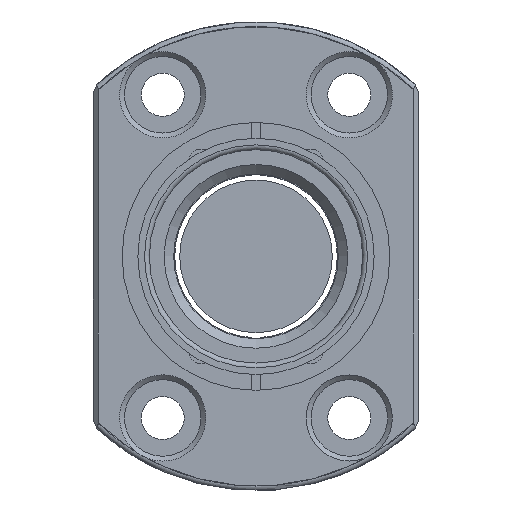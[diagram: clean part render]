
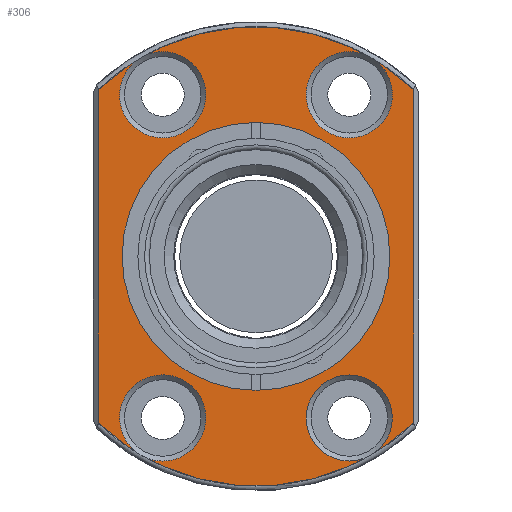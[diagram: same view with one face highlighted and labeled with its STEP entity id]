
A CAD part, front view. The second image highlights one B-rep face of the part: STEP entity #306.
In plain terms, the highlighted planar face has unit normal (0, 1, 0).
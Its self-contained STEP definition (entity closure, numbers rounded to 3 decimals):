
#55=LINE('',#2209,#95);
#56=LINE('',#2213,#96);
#95=VECTOR('',#1812,1.);
#96=VECTOR('',#1815,1.);
#209=PLANE('',#1505);
#306=ADVANCED_FACE('',(#466,#467,#468,#469,#470,#471),#209,.F.);
#466=FACE_BOUND('',#630,.T.);
#467=FACE_BOUND('',#631,.T.);
#468=FACE_BOUND('',#632,.T.);
#469=FACE_BOUND('',#633,.T.);
#470=FACE_BOUND('',#634,.T.);
#471=FACE_BOUND('',#635,.T.);
#630=EDGE_LOOP('',(#846));
#631=EDGE_LOOP('',(#847));
#632=EDGE_LOOP('',(#848));
#633=EDGE_LOOP('',(#849));
#634=EDGE_LOOP('',(#850,#851,#852,#853));
#635=EDGE_LOOP('',(#854));
#846=ORIENTED_EDGE('',*,*,#1218,.T.);
#847=ORIENTED_EDGE('',*,*,#1219,.T.);
#848=ORIENTED_EDGE('',*,*,#1220,.T.);
#849=ORIENTED_EDGE('',*,*,#1221,.T.);
#850=ORIENTED_EDGE('',*,*,#1222,.T.);
#851=ORIENTED_EDGE('',*,*,#1223,.T.);
#852=ORIENTED_EDGE('',*,*,#1224,.T.);
#853=ORIENTED_EDGE('',*,*,#1225,.T.);
#854=ORIENTED_EDGE('',*,*,#1226,.T.);
#1085=VERTEX_POINT('',#2199);
#1086=VERTEX_POINT('',#2201);
#1087=VERTEX_POINT('',#2203);
#1088=VERTEX_POINT('',#2205);
#1089=VERTEX_POINT('',#2207);
#1090=VERTEX_POINT('',#2208);
#1091=VERTEX_POINT('',#2210);
#1092=VERTEX_POINT('',#2212);
#1093=VERTEX_POINT('',#2215);
#1218=EDGE_CURVE('',#1085,#1085,#1355,.T.);
#1219=EDGE_CURVE('',#1086,#1086,#1356,.T.);
#1220=EDGE_CURVE('',#1087,#1087,#1357,.T.);
#1221=EDGE_CURVE('',#1088,#1088,#1358,.T.);
#1222=EDGE_CURVE('',#1089,#1090,#1359,.T.);
#1223=EDGE_CURVE('',#1090,#1091,#55,.T.);
#1224=EDGE_CURVE('',#1091,#1092,#1360,.T.);
#1225=EDGE_CURVE('',#1092,#1089,#56,.T.);
#1226=EDGE_CURVE('',#1093,#1093,#1361,.T.);
#1355=CIRCLE('',#1498,2.75);
#1356=CIRCLE('',#1499,2.75);
#1357=CIRCLE('',#1500,2.75);
#1358=CIRCLE('',#1501,2.75);
#1359=CIRCLE('',#1502,24.);
#1360=CIRCLE('',#1503,24.);
#1361=CIRCLE('',#1504,14.);
#1498=AXIS2_PLACEMENT_3D('',#2198,#1802,#1803);
#1499=AXIS2_PLACEMENT_3D('',#2200,#1804,#1805);
#1500=AXIS2_PLACEMENT_3D('',#2202,#1806,#1807);
#1501=AXIS2_PLACEMENT_3D('',#2204,#1808,#1809);
#1502=AXIS2_PLACEMENT_3D('',#2206,#1810,#1811);
#1503=AXIS2_PLACEMENT_3D('',#2211,#1813,#1814);
#1504=AXIS2_PLACEMENT_3D('',#2214,#1816,#1817);
#1505=AXIS2_PLACEMENT_3D('',#2216,#1818,#1819);
#1802=DIRECTION('',(0.,-1.,0.));
#1803=DIRECTION('',(0.,0.,-1.));
#1804=DIRECTION('',(0.,-1.,0.));
#1805=DIRECTION('',(0.,0.,-1.));
#1806=DIRECTION('',(0.,-1.,0.));
#1807=DIRECTION('',(0.,0.,-1.));
#1808=DIRECTION('',(0.,-1.,0.));
#1809=DIRECTION('',(0.,0.,-1.));
#1810=DIRECTION('',(0.,1.,0.));
#1811=DIRECTION('',(0.,0.,-1.));
#1812=DIRECTION('',(0.,0.,-1.));
#1813=DIRECTION('',(0.,1.,0.));
#1814=DIRECTION('',(0.,0.,-1.));
#1815=DIRECTION('',(0.,0.,1.));
#1816=DIRECTION('',(0.,-1.,0.));
#1817=DIRECTION('',(0.,0.,-1.));
#1818=DIRECTION('',(0.,-1.,0.));
#1819=DIRECTION('',(0.,0.,-1.));
#2198=CARTESIAN_POINT('',(-9.75,10.,16.887));
#2199=CARTESIAN_POINT('',(-9.75,10.,14.137));
#2200=CARTESIAN_POINT('',(-9.75,10.,-16.887));
#2201=CARTESIAN_POINT('',(-9.75,10.,-19.637));
#2202=CARTESIAN_POINT('',(9.75,10.,-16.887));
#2203=CARTESIAN_POINT('',(9.75,10.,-19.637));
#2204=CARTESIAN_POINT('',(9.75,10.,16.887));
#2205=CARTESIAN_POINT('',(9.75,10.,14.137));
#2206=CARTESIAN_POINT('',(0.,10.,0.));
#2207=CARTESIAN_POINT('',(-16.5,10.,17.428));
#2208=CARTESIAN_POINT('',(16.5,10.,17.428));
#2209=CARTESIAN_POINT('',(16.5,10.,-16.941));
#2210=CARTESIAN_POINT('',(16.5,10.,-17.428));
#2211=CARTESIAN_POINT('',(0.,10.,0.));
#2212=CARTESIAN_POINT('',(-16.5,10.,-17.428));
#2213=CARTESIAN_POINT('',(-16.5,10.,16.941));
#2214=CARTESIAN_POINT('',(0.,10.,0.));
#2215=CARTESIAN_POINT('',(0.,10.,-14.));
#2216=CARTESIAN_POINT('',(0.,10.,0.));
